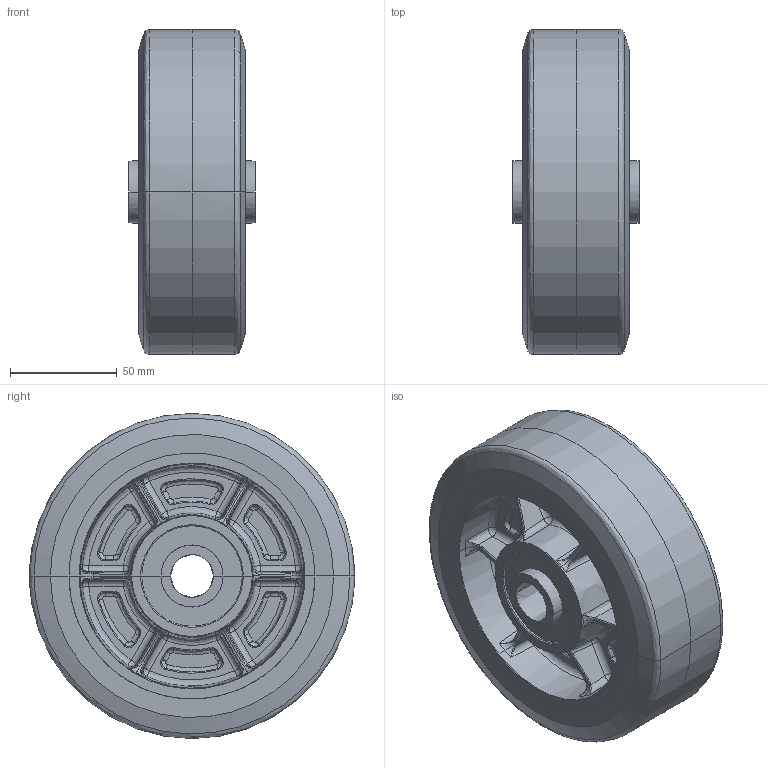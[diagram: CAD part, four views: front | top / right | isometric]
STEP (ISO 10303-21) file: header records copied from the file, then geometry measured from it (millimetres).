
FILE_DESCRIPTION (( 'STEP AP214' ), '1' );
FILE_NAME ('HP-150W.STEP', '2023-06-28T06:17:16', ( 'sakai' ), ( 'Hewlett-Packard' ), 'SwSTEP 2.0', 'SolidWorks 2010', '' );
FILE_SCHEMA (( 'AUTOMOTIVE_DESIGN' ));
Length unit declared in the file: millimetre
Products named in the file (5): Part19; HP-150W-ALL-1; HP-150W-ALL-2; HP-150W-ALL-3; HP-150W
Assembly tree (4 placements, depth 2):
  HP-150W
    Part19
    HP-150W-ALL-1
    HP-150W-ALL-3
    HP-150W-ALL-2
Bounding box: 59 x 152 x 152 mm (x, y, z)
Volume: 624986 mm3; surface area: 135728.4 mm2
Topology: 4 solids, 4 shells, 757 faces, 1873 edges, 1078 vertices
Faces by surface type: bspline 695, plane 62
Entity records: 68938 total; most frequent: CARTESIAN_POINT 56383, ORIENTED_EDGE 3646, EDGE_CURVE 1823, B_SPLINE_CURVE_WITH_KNOTS 1719, VERTEX_POINT 1078, EDGE_LOOP 769, ADVANCED_FACE 757, FACE_OUTER_BOUND 757
